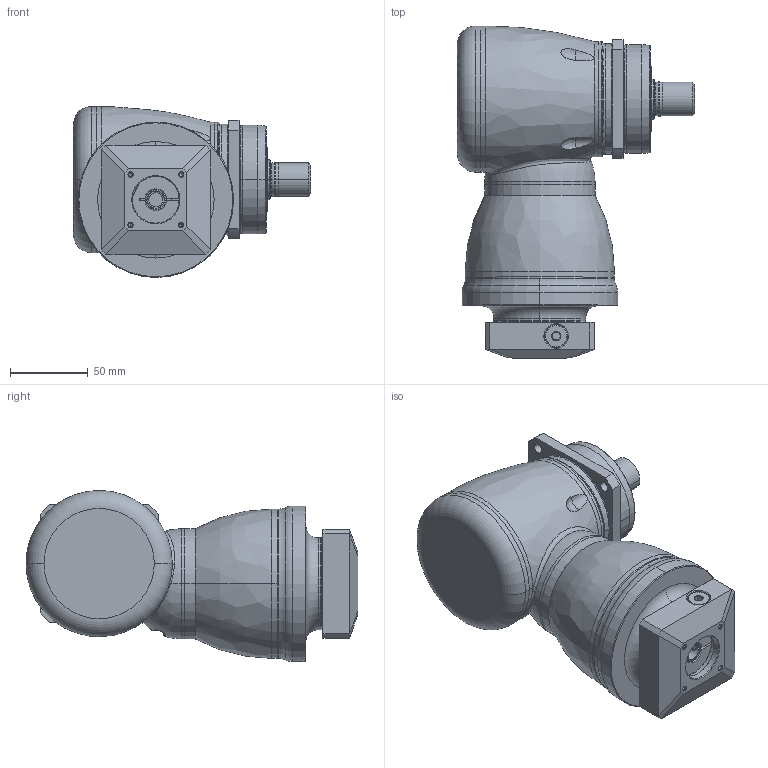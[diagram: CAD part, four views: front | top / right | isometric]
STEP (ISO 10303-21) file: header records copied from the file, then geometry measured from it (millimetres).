
FILE_DESCRIPTION((''),'2;1');
FILE_NAME('KF075_S3_1ST_11-P0409200101_ASM','2016-07-01T',('d01943'),(''),'PRO/ENGINEER BY PARAMETRIC TECHNOLOGY CORPORATION, 2008410','PRO/ENGINEER BY PARAMETRIC TECHNOLOGY CORPORATION, 2008410','');
FILE_SCHEMA(('CONFIG_CONTROL_DESIGN'));
Length unit declared in the file: millimetre
Products named in the file (11): P1008300002; P1804300001; P0915302001; P1315300001; P1007300001; P1318300001; P0409200101; P0503200005; P0912300001; 21711410012; KF075_S3_1ST_11-P0409200101_ASM
Assembly tree (10 placements, depth 2):
  KF075_S3_1ST_11-P0409200101_ASM
    P1008300002
    P1804300001
    P0915302001
    P1315300001
    P1007300001
    P1318300001
    P0409200101
    P0503200005
    P0912300001
    21711410012
Bounding box: 152.5 x 213.5 x 110 mm (x, y, z)
Volume: 1311124.8 mm3; surface area: 174892.4 mm2
Topology: 11 solids, 11 shells, 445 faces, 1013 edges, 598 vertices
Faces by surface type: cylinder 145, cone 114, plane 85, torus 66, bspline 33, sphere 2
Entity records: 19015 total; most frequent: CARTESIAN_POINT 8924, DIRECTION 2212, ORIENTED_EDGE 1962, EDGE_CURVE 981, AXIS2_PLACEMENT_3D 940, VERTEX_POINT 592, CIRCLE 507, EDGE_LOOP 503
